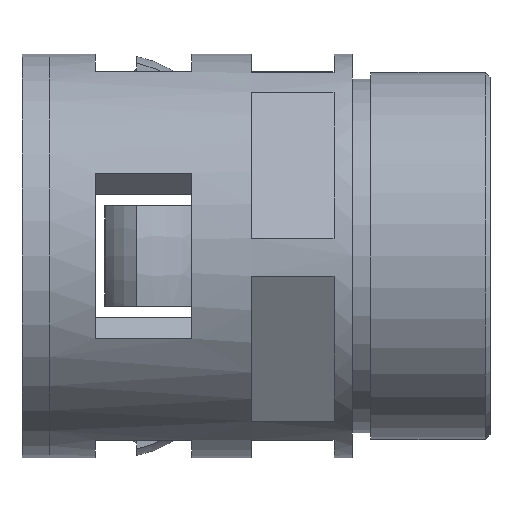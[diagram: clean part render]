
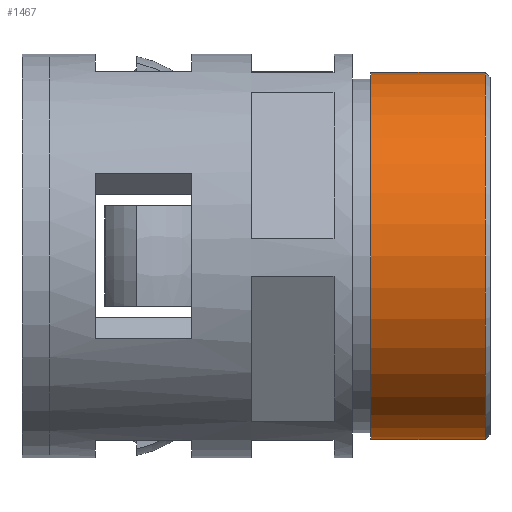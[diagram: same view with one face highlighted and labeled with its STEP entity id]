
A CAD part, front view. The second image highlights one B-rep face of the part: STEP entity #1467.
In plain terms, the highlighted cylindrical face has radius 20 mm (diameter 40 mm), a partial arc.
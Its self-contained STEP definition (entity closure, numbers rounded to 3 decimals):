
#530 = EDGE_CURVE ( 'NONE', #569, #531, #2653, .T. ) ;
#531 = VERTEX_POINT ( 'NONE', #2654 ) ;
#559 = VERTEX_POINT ( 'NONE', #2716 ) ;
#569 = VERTEX_POINT ( 'NONE', #2698 ) ;
#576 = VERTEX_POINT ( 'NONE', #2748 ) ;
#582 = EDGE_CURVE ( 'NONE', #559, #576, #2732, .T. ) ;
#1465 = ORIENTED_EDGE ( 'NONE', *, *, #530, .F. ) ;
#1466 = ORIENTED_EDGE ( 'NONE', *, *, #1469, .T. ) ;
#1467 = ADVANCED_FACE ( 'NONE', ( #4800 ), #4779, .T. ) ;
#1468 = ORIENTED_EDGE ( 'NONE', *, *, #1561, .T. ) ;
#1469 = EDGE_CURVE ( 'NONE', #569, #559, #4785, .T. ) ;
#1470 = EDGE_LOOP ( 'NONE', ( #1465, #1466, #1474, #1468 ) ) ;
#1474 = ORIENTED_EDGE ( 'NONE', *, *, #582, .T. ) ;
#1561 = EDGE_CURVE ( 'NONE', #576, #531, #4928, .T. ) ;
#2650 = DIRECTION ( 'NONE',  ( -1., 0., 0. ) ) ;
#2651 = VECTOR ( 'NONE', #2650, 1000. ) ;
#2652 = CARTESIAN_POINT ( 'NONE',  ( 15., 0., -20. ) ) ;
#2653 = LINE ( 'NONE', #2652, #2651 ) ;
#2654 = CARTESIAN_POINT ( 'NONE',  ( 2., 0., -20. ) ) ;
#2698 = CARTESIAN_POINT ( 'NONE',  ( 14.5, 0., -20. ) ) ;
#2716 = CARTESIAN_POINT ( 'NONE',  ( 14.5, 0., 20. ) ) ;
#2731 = CARTESIAN_POINT ( 'NONE',  ( 15., 0., 20. ) ) ;
#2732 = LINE ( 'NONE', #2731, #2789 ) ;
#2748 = CARTESIAN_POINT ( 'NONE',  ( 2., 0., 20. ) ) ;
#2788 = DIRECTION ( 'NONE',  ( -1., 0., 0. ) ) ;
#2789 = VECTOR ( 'NONE', #2788, 1000. ) ;
#4772 = DIRECTION ( 'NONE',  ( -1., 0., 0. ) ) ;
#4775 = DIRECTION ( 'NONE',  ( 0., 0., 1. ) ) ;
#4776 = DIRECTION ( 'NONE',  ( -1., 0., 0. ) ) ;
#4777 = CARTESIAN_POINT ( 'NONE',  ( 15., 0., 0. ) ) ;
#4778 = AXIS2_PLACEMENT_3D ( 'NONE', #4777, #4776, #4775 ) ;
#4779 = CYLINDRICAL_SURFACE ( 'NONE', #4778, 20. ) ;
#4784 = AXIS2_PLACEMENT_3D ( 'NONE', #4795, #4772, #4836 ) ;
#4785 = CIRCLE ( 'NONE', #4784, 20. ) ;
#4795 = CARTESIAN_POINT ( 'NONE',  ( 14.5, 0., 0. ) ) ;
#4800 = FACE_OUTER_BOUND ( 'NONE', #1470, .T. ) ;
#4836 = DIRECTION ( 'NONE',  ( 0., 0., -1. ) ) ;
#4917 = DIRECTION ( 'NONE',  ( 0., 0., -1. ) ) ;
#4918 = DIRECTION ( 'NONE',  ( 1., 0., 0. ) ) ;
#4919 = CARTESIAN_POINT ( 'NONE',  ( 2., 0., 0. ) ) ;
#4928 = CIRCLE ( 'NONE', #4932, 20. ) ;
#4932 = AXIS2_PLACEMENT_3D ( 'NONE', #4919, #4918, #4917 ) ;
